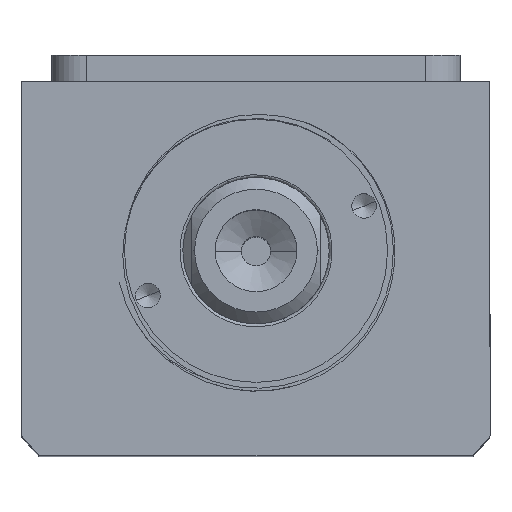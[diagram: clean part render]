
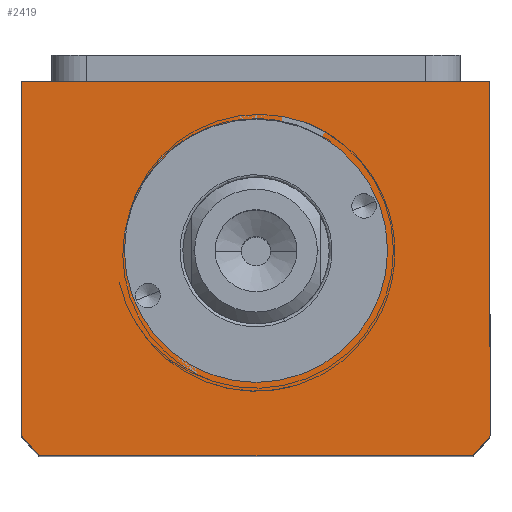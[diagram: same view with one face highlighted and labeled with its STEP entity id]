
A CAD part, top view. The second image highlights one B-rep face of the part: STEP entity #2419.
In plain terms, the highlighted planar face has unit normal (0, 0, 1).
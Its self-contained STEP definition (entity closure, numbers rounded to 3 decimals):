
#142 = AXIS2_PLACEMENT_3D ( 'NONE', #3705, #9276, #4497 ) ;
#454 = VERTEX_POINT ( 'NONE', #3815 ) ;
#824 = ORIENTED_EDGE ( 'NONE', *, *, #6534, .F. ) ;
#844 = VECTOR ( 'NONE', #5909, 1000. ) ;
#919 = CARTESIAN_POINT ( 'NONE',  ( 0., 3., 140. ) ) ;
#1106 = CARTESIAN_POINT ( 'NONE',  ( -40., -32., 140. ) ) ;
#1270 = VECTOR ( 'NONE', #2660, 1000. ) ;
#1315 = ORIENTED_EDGE ( 'NONE', *, *, #7982, .T. ) ;
#1687 = AXIS2_PLACEMENT_3D ( 'NONE', #3299, #8883, #4100 ) ;
#1727 = DIRECTION ( 'NONE',  ( 1., 0., 0. ) ) ;
#1890 = ORIENTED_EDGE ( 'NONE', *, *, #9323, .T. ) ;
#2003 = CARTESIAN_POINT ( 'NONE',  ( 40., 32., 140. ) ) ;
#2044 = VERTEX_POINT ( 'NONE', #7764 ) ;
#2419 = ADVANCED_FACE ( 'NONE', ( #2853, #4731 ), #7477, .T. ) ;
#2660 = DIRECTION ( 'NONE',  ( -1., 0., 0. ) ) ;
#2718 = CIRCLE ( 'NONE', #142, 22.5 ) ;
#2821 = VERTEX_POINT ( 'NONE', #4179 ) ;
#2853 = FACE_BOUND ( 'NONE', #9753, .T. ) ;
#3299 = CARTESIAN_POINT ( 'NONE',  ( 0., 3., 140. ) ) ;
#3383 = LINE ( 'NONE', #9466, #3758 ) ;
#3385 = LINE ( 'NONE', #9413, #9726 ) ;
#3414 = VERTEX_POINT ( 'NONE', #7156 ) ;
#3705 = CARTESIAN_POINT ( 'NONE',  ( 0., 3., 140. ) ) ;
#3758 = VECTOR ( 'NONE', #4698, 1000. ) ;
#3815 = CARTESIAN_POINT ( 'NONE',  ( -40., -28.639, 140. ) ) ;
#3965 = CARTESIAN_POINT ( 'NONE',  ( 0., 3., 140. ) ) ;
#4100 = DIRECTION ( 'NONE',  ( 1., 0., 0. ) ) ;
#4179 = CARTESIAN_POINT ( 'NONE',  ( -40., 32., 140. ) ) ;
#4227 = EDGE_CURVE ( 'NONE', #2044, #6848, #7237, .T. ) ;
#4436 = EDGE_CURVE ( 'NONE', #3414, #5794, #2718, .T. ) ;
#4469 = DIRECTION ( 'NONE',  ( 0., 1., 0. ) ) ;
#4497 = DIRECTION ( 'NONE',  ( 1., 0., 0. ) ) ;
#4696 = VERTEX_POINT ( 'NONE', #10312 ) ;
#4698 = DIRECTION ( 'NONE',  ( 0., -1., 0. ) ) ;
#4703 = ORIENTED_EDGE ( 'NONE', *, *, #8305, .T. ) ;
#4731 = FACE_OUTER_BOUND ( 'NONE', #5489, .T. ) ;
#4767 = DIRECTION ( 'NONE',  ( 1., 0., 0. ) ) ;
#5489 = EDGE_LOOP ( 'NONE', ( #6861, #6079, #6143, #1315, #1890, #4703 ) ) ;
#5536 = LINE ( 'NONE', #6676, #1270 ) ;
#5794 = VERTEX_POINT ( 'NONE', #9038 ) ;
#5909 = DIRECTION ( 'NONE',  ( 1., 0., 0. ) ) ;
#5937 = AXIS2_PLACEMENT_3D ( 'NONE', #3965, #9530, #4767 ) ;
#6079 = ORIENTED_EDGE ( 'NONE', *, *, #7655, .T. ) ;
#6143 = ORIENTED_EDGE ( 'NONE', *, *, #4227, .T. ) ;
#6365 = CIRCLE ( 'NONE', #1687, 22.5 ) ;
#6534 = EDGE_CURVE ( 'NONE', #5794, #3414, #6365, .T. ) ;
#6546 = DIRECTION ( 'NONE',  ( 0., 0., 1. ) ) ;
#6676 = CARTESIAN_POINT ( 'NONE',  ( -40., 32., 140. ) ) ;
#6827 = DIRECTION ( 'NONE',  ( 0., 0., 1. ) ) ;
#6848 = VERTEX_POINT ( 'NONE', #7543 ) ;
#6861 = ORIENTED_EDGE ( 'NONE', *, *, #10263, .T. ) ;
#7156 = CARTESIAN_POINT ( 'NONE',  ( 22.5, 3., 140. ) ) ;
#7237 = LINE ( 'NONE', #1106, #844 ) ;
#7276 = DIRECTION ( 'NONE',  ( 1., 0., 0. ) ) ;
#7397 = AXIS2_PLACEMENT_3D ( 'NONE', #8028, #6827, #7276 ) ;
#7477 = PLANE ( 'NONE',  #7397 ) ;
#7543 = CARTESIAN_POINT ( 'NONE',  ( 37.094, -32., 140. ) ) ;
#7655 = EDGE_CURVE ( 'NONE', #454, #2044, #8331, .T. ) ;
#7756 = AXIS2_PLACEMENT_3D ( 'NONE', #919, #6546, #1727 ) ;
#7764 = CARTESIAN_POINT ( 'NONE',  ( -37.094, -32., 140. ) ) ;
#7982 = EDGE_CURVE ( 'NONE', #6848, #4696, #9446, .T. ) ;
#8028 = CARTESIAN_POINT ( 'NONE',  ( 0., 0., 140. ) ) ;
#8305 = EDGE_CURVE ( 'NONE', #9995, #2821, #5536, .T. ) ;
#8331 = CIRCLE ( 'NONE', #7756, 51. ) ;
#8883 = DIRECTION ( 'NONE',  ( 0., 0., 1. ) ) ;
#9038 = CARTESIAN_POINT ( 'NONE',  ( -22.5, 3., 140. ) ) ;
#9057 = ORIENTED_EDGE ( 'NONE', *, *, #4436, .F. ) ;
#9276 = DIRECTION ( 'NONE',  ( 0., 0., 1. ) ) ;
#9323 = EDGE_CURVE ( 'NONE', #4696, #9995, #3385, .T. ) ;
#9413 = CARTESIAN_POINT ( 'NONE',  ( 40., 32., 140. ) ) ;
#9446 = CIRCLE ( 'NONE', #5937, 51. ) ;
#9466 = CARTESIAN_POINT ( 'NONE',  ( -40., 32., 140. ) ) ;
#9530 = DIRECTION ( 'NONE',  ( 0., 0., 1. ) ) ;
#9726 = VECTOR ( 'NONE', #4469, 1000. ) ;
#9753 = EDGE_LOOP ( 'NONE', ( #9057, #824 ) ) ;
#9995 = VERTEX_POINT ( 'NONE', #2003 ) ;
#10263 = EDGE_CURVE ( 'NONE', #2821, #454, #3383, .T. ) ;
#10312 = CARTESIAN_POINT ( 'NONE',  ( 40., -28.639, 140. ) ) ;
